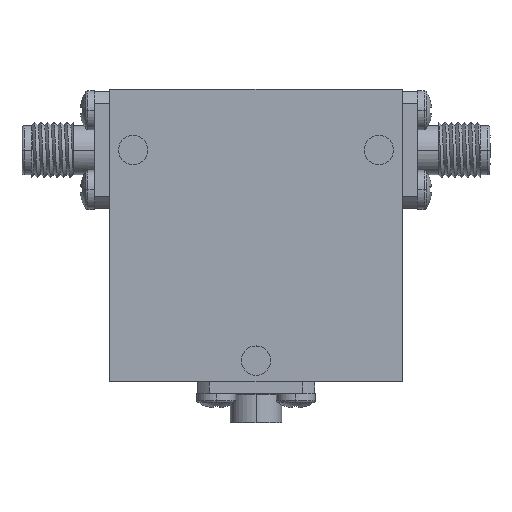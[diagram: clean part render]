
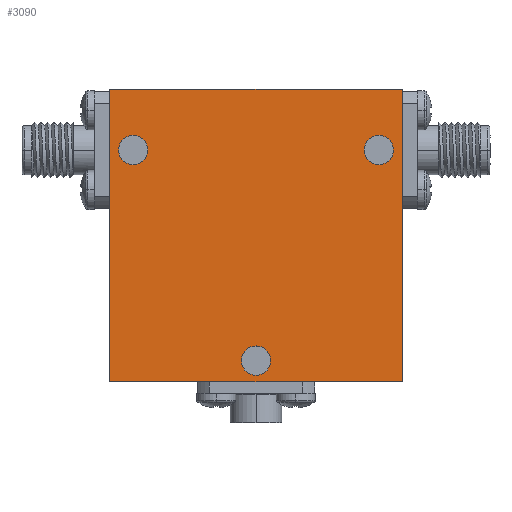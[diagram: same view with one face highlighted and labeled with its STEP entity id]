
A CAD part, top view. The second image highlights one B-rep face of the part: STEP entity #3090.
In plain terms, the highlighted planar face has unit normal (0, 0, 1) as drawn and (0, 0, -1) by its records, which use the part's own axes.
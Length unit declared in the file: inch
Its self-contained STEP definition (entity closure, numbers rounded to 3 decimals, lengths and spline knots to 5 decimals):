
#7 = ORIENTED_EDGE ( 'NONE', *, *, #2376, .T. ) ;
#35 = DIRECTION ( 'NONE',  ( -1., 0., 0. ) ) ;
#117 = CIRCLE ( 'NONE', #795, 0.0625 ) ;
#154 = CARTESIAN_POINT ( 'NONE',  ( -0.0625, -0.535, -0.365 ) ) ;
#169 = LINE ( 'NONE', #4260, #4042 ) ;
#277 = CARTESIAN_POINT ( 'NONE',  ( 0.525, 0.365, -0.365 ) ) ;
#438 = EDGE_CURVE ( 'NONE', #1043, #4770, #117, .T. ) ;
#483 = DIRECTION ( 'NONE',  ( 0., 1., 0. ) ) ;
#502 = VERTEX_POINT ( 'NONE', #3057 ) ;
#585 = EDGE_CURVE ( 'NONE', #4194, #1698, #169, .T. ) ;
#639 = ORIENTED_EDGE ( 'NONE', *, *, #585, .F. ) ;
#687 = DIRECTION ( 'NONE',  ( 0., 0., 1. ) ) ;
#692 = CARTESIAN_POINT ( 'NONE',  ( -0.625, 0.625, -0.365 ) ) ;
#769 = CIRCLE ( 'NONE', #801, 0.0625 ) ;
#795 = AXIS2_PLACEMENT_3D ( 'NONE', #1593, #3427, #1603 ) ;
#801 = AXIS2_PLACEMENT_3D ( 'NONE', #4541, #2304, #2327 ) ;
#830 = LINE ( 'NONE', #1935, #2679 ) ;
#879 = ORIENTED_EDGE ( 'NONE', *, *, #943, .F. ) ;
#943 = EDGE_CURVE ( 'NONE', #1698, #4166, #3866, .T. ) ;
#1041 = EDGE_CURVE ( 'NONE', #4599, #502, #1253, .T. ) ;
#1043 = VERTEX_POINT ( 'NONE', #154 ) ;
#1222 = CIRCLE ( 'NONE', #3038, 0.0625 ) ;
#1253 = CIRCLE ( 'NONE', #4850, 0.0625 ) ;
#1289 = CARTESIAN_POINT ( 'NONE',  ( -0.525, 0.365, -0.365 ) ) ;
#1311 = CARTESIAN_POINT ( 'NONE',  ( 0.0625, -0.535, -0.365 ) ) ;
#1449 = FACE_OUTER_BOUND ( 'NONE', #2779, .T. ) ;
#1500 = ORIENTED_EDGE ( 'NONE', *, *, #438, .T. ) ;
#1552 = EDGE_CURVE ( 'NONE', #4166, #2936, #830, .T. ) ;
#1571 = FACE_BOUND ( 'NONE', #3847, .T. ) ;
#1580 = CARTESIAN_POINT ( 'NONE',  ( 0.4625, 0.365, -0.365 ) ) ;
#1588 = LINE ( 'NONE', #692, #1693 ) ;
#1593 = CARTESIAN_POINT ( 'NONE',  ( 0., -0.535, -0.365 ) ) ;
#1603 = DIRECTION ( 'NONE',  ( 1., 0., 0. ) ) ;
#1693 = VECTOR ( 'NONE', #2579, 39.37008 ) ;
#1698 = VERTEX_POINT ( 'NONE', #3160 ) ;
#1803 = DIRECTION ( 'NONE',  ( 0., 0., 1. ) ) ;
#1934 = EDGE_CURVE ( 'NONE', #502, #4599, #4489, .T. ) ;
#1935 = CARTESIAN_POINT ( 'NONE',  ( -0.625, 0.625, -0.365 ) ) ;
#2097 = PLANE ( 'NONE',  #3352 ) ;
#2129 = CARTESIAN_POINT ( 'NONE',  ( -0.625, 0.625, -0.365 ) ) ;
#2169 = DIRECTION ( 'NONE',  ( 1., 0., 0. ) ) ;
#2187 = ORIENTED_EDGE ( 'NONE', *, *, #1041, .T. ) ;
#2204 = EDGE_CURVE ( 'NONE', #4770, #1043, #769, .T. ) ;
#2304 = DIRECTION ( 'NONE',  ( 0., 0., 1. ) ) ;
#2307 = CARTESIAN_POINT ( 'NONE',  ( 0.625, 0.625, -0.365 ) ) ;
#2327 = DIRECTION ( 'NONE',  ( 1., 0., 0. ) ) ;
#2352 = DIRECTION ( 'NONE',  ( 1., 0., 0. ) ) ;
#2370 = CARTESIAN_POINT ( 'NONE',  ( -0.5875, 0.365, -0.365 ) ) ;
#2376 = EDGE_CURVE ( 'NONE', #4069, #4646, #3190, .T. ) ;
#2433 = FACE_BOUND ( 'NONE', #3004, .T. ) ;
#2455 = CARTESIAN_POINT ( 'NONE',  ( 0.625, 0.625, -0.365 ) ) ;
#2470 = ORIENTED_EDGE ( 'NONE', *, *, #1934, .T. ) ;
#2510 = EDGE_CURVE ( 'NONE', #2936, #4194, #1588, .T. ) ;
#2524 = EDGE_LOOP ( 'NONE', ( #2470, #2187 ) ) ;
#2579 = DIRECTION ( 'NONE',  ( 0., -1., 0. ) ) ;
#2679 = VECTOR ( 'NONE', #35, 39.37008 ) ;
#2779 = EDGE_LOOP ( 'NONE', ( #879, #639, #3704, #4010 ) ) ;
#2879 = CARTESIAN_POINT ( 'NONE',  ( -0.625, -0.625, -0.365 ) ) ;
#2936 = VERTEX_POINT ( 'NONE', #2129 ) ;
#2987 = ORIENTED_EDGE ( 'NONE', *, *, #3963, .T. ) ;
#3004 = EDGE_LOOP ( 'NONE', ( #4247, #1500 ) ) ;
#3038 = AXIS2_PLACEMENT_3D ( 'NONE', #277, #687, #2169 ) ;
#3057 = CARTESIAN_POINT ( 'NONE',  ( -0.4625, 0.365, -0.365 ) ) ;
#3090 = ADVANCED_FACE ( 'NONE', ( #1571, #2433, #3846, #1449 ), #2097, .F. ) ;
#3160 = CARTESIAN_POINT ( 'NONE',  ( 0.625, -0.625, -0.365 ) ) ;
#3188 = CARTESIAN_POINT ( 'NONE',  ( 0.525, 0.365, -0.365 ) ) ;
#3190 = CIRCLE ( 'NONE', #4319, 0.0625 ) ;
#3352 = AXIS2_PLACEMENT_3D ( 'NONE', #4402, #1803, #3729 ) ;
#3427 = DIRECTION ( 'NONE',  ( 0., 0., 1. ) ) ;
#3629 = AXIS2_PLACEMENT_3D ( 'NONE', #4002, #4404, #3680 ) ;
#3680 = DIRECTION ( 'NONE',  ( 1., 0., 0. ) ) ;
#3704 = ORIENTED_EDGE ( 'NONE', *, *, #2510, .F. ) ;
#3729 = DIRECTION ( 'NONE',  ( 1., 0., 0. ) ) ;
#3846 = FACE_BOUND ( 'NONE', #2524, .T. ) ;
#3847 = EDGE_LOOP ( 'NONE', ( #7, #2987 ) ) ;
#3866 = LINE ( 'NONE', #2307, #4679 ) ;
#3906 = DIRECTION ( 'NONE',  ( 0., 0., 1. ) ) ;
#3963 = EDGE_CURVE ( 'NONE', #4646, #4069, #1222, .T. ) ;
#3966 = CARTESIAN_POINT ( 'NONE',  ( 0.5875, 0.365, -0.365 ) ) ;
#3995 = DIRECTION ( 'NONE',  ( 1., 0., 0. ) ) ;
#4002 = CARTESIAN_POINT ( 'NONE',  ( -0.525, 0.365, -0.365 ) ) ;
#4010 = ORIENTED_EDGE ( 'NONE', *, *, #1552, .F. ) ;
#4042 = VECTOR ( 'NONE', #2352, 39.37008 ) ;
#4069 = VERTEX_POINT ( 'NONE', #3966 ) ;
#4166 = VERTEX_POINT ( 'NONE', #2455 ) ;
#4194 = VERTEX_POINT ( 'NONE', #2879 ) ;
#4247 = ORIENTED_EDGE ( 'NONE', *, *, #2204, .T. ) ;
#4260 = CARTESIAN_POINT ( 'NONE',  ( -0.625, -0.625, -0.365 ) ) ;
#4319 = AXIS2_PLACEMENT_3D ( 'NONE', #3188, #4737, #3995 ) ;
#4402 = CARTESIAN_POINT ( 'NONE',  ( 0., 0., -0.365 ) ) ;
#4404 = DIRECTION ( 'NONE',  ( 0., 0., 1. ) ) ;
#4489 = CIRCLE ( 'NONE', #3629, 0.0625 ) ;
#4541 = CARTESIAN_POINT ( 'NONE',  ( 0., -0.535, -0.365 ) ) ;
#4599 = VERTEX_POINT ( 'NONE', #2370 ) ;
#4613 = DIRECTION ( 'NONE',  ( 1., 0., 0. ) ) ;
#4646 = VERTEX_POINT ( 'NONE', #1580 ) ;
#4679 = VECTOR ( 'NONE', #483, 39.37008 ) ;
#4737 = DIRECTION ( 'NONE',  ( 0., 0., 1. ) ) ;
#4770 = VERTEX_POINT ( 'NONE', #1311 ) ;
#4850 = AXIS2_PLACEMENT_3D ( 'NONE', #1289, #3906, #4613 ) ;
